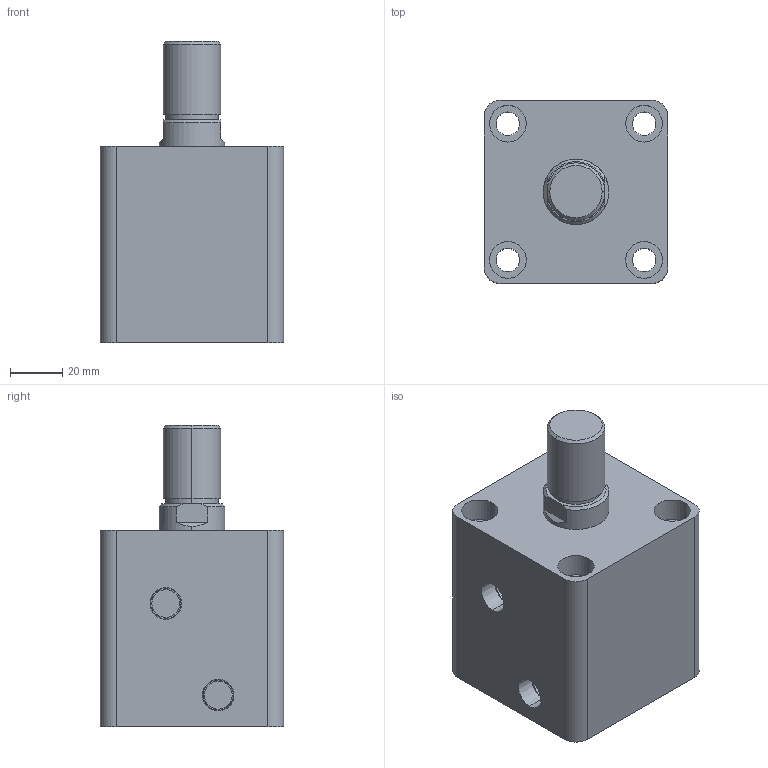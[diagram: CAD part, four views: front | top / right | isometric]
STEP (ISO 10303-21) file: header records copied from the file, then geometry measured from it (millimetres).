
FILE_DESCRIPTION (( 'STEP AP203' ), '1' );
FILE_NAME ('HTB-SD40-20W.STEP', '2019-10-07T06:48:08', ( '微软用户' ), ( '微软中国' ), 'SwSTEP 2.0', 'SolidWorks 2012', '' );
FILE_SCHEMA (( 'CONFIG_CONTROL_DESIGN' ));
Length unit declared in the file: millimetre
Products named in the file (3): HTB-SD40-20掛极; HTB-SD40-20W活塞杆; HTB-SD40-20W
Assembly tree (2 placements, depth 2):
  HTB-SD40-20W
    HTB-SD40-20掛极
    HTB-SD40-20W活塞杆
Bounding box: 70 x 70 x 115 mm (x, y, z)
Volume: 338261.1 mm3; surface area: 59467.9 mm2
Topology: 2 solids, 2 shells, 85 faces, 186 edges, 122 vertices
Faces by surface type: cylinder 44, plane 29, cone 8, torus 4
Entity records: 2709 total; most frequent: DIRECTION 466, CARTESIAN_POINT 426, ORIENTED_EDGE 372, AXIS2_PLACEMENT_3D 198, EDGE_CURVE 186, VERTEX_POINT 122, EDGE_LOOP 110, CIRCLE 108
